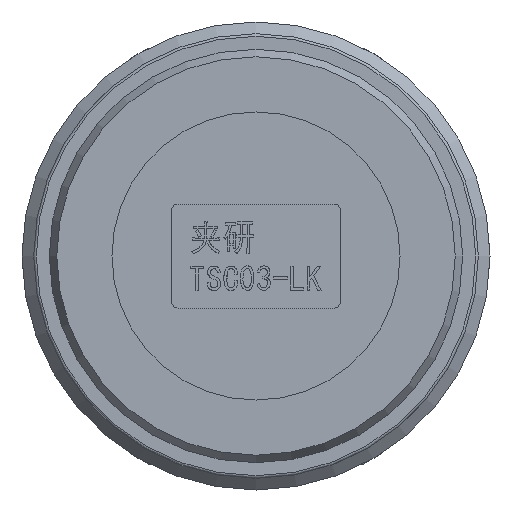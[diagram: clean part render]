
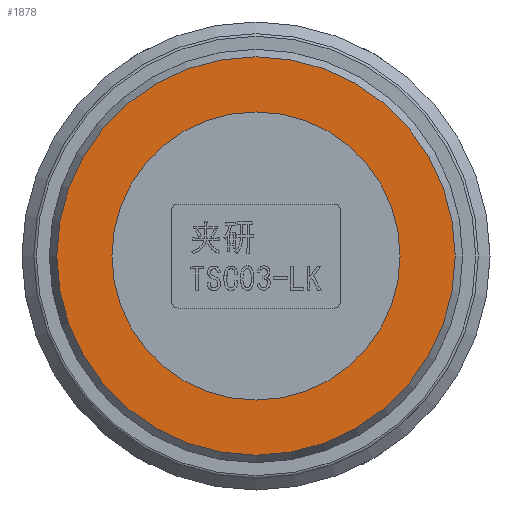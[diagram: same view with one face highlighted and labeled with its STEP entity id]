
A CAD part, front view. The second image highlights one B-rep face of the part: STEP entity #1878.
In plain terms, the highlighted planar face has unit normal (0, -1, 0).
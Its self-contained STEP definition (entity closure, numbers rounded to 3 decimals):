
#1878=ADVANCED_FACE('',(#2272,#2273),#2106,.T.);
#2106=PLANE('',#5981);
#2272=FACE_BOUND('',#2383,.T.);
#2273=FACE_BOUND('',#2384,.T.);
#2383=EDGE_LOOP('',(#2888));
#2384=EDGE_LOOP('',(#2889));
#2657=CIRCLE('',#5913,15.325);
#2658=CIRCLE('',#5915,11.08);
#2888=ORIENTED_EDGE('',*,*,#4465,.T.);
#2889=ORIENTED_EDGE('',*,*,#4466,.F.);
#4027=VERTEX_POINT('',#7223);
#4028=VERTEX_POINT('',#7226);
#4465=EDGE_CURVE('',#4027,#4027,#2657,.T.);
#4466=EDGE_CURVE('',#4028,#4028,#2658,.T.);
#5913=AXIS2_PLACEMENT_3D('',#7222,#6220,#6221);
#5915=AXIS2_PLACEMENT_3D('',#7225,#6224,#6225);
#5981=AXIS2_PLACEMENT_3D('',#7797,#6368,#6369);
#6220=DIRECTION('',(0.,-1.,0.));
#6221=DIRECTION('',(0.,0.,-1.));
#6224=DIRECTION('',(0.,-1.,0.));
#6225=DIRECTION('',(0.,0.,-1.));
#6368=DIRECTION('',(0.,-1.,0.));
#6369=DIRECTION('',(0.,0.,-1.));
#7222=CARTESIAN_POINT('',(-14.954,0.3,0.));
#7223=CARTESIAN_POINT('',(-14.954,0.3,-15.325));
#7225=CARTESIAN_POINT('',(-14.954,0.3,0.));
#7226=CARTESIAN_POINT('',(-14.954,0.3,-11.08));
#7797=CARTESIAN_POINT('',(-26.034,0.3,0.));
